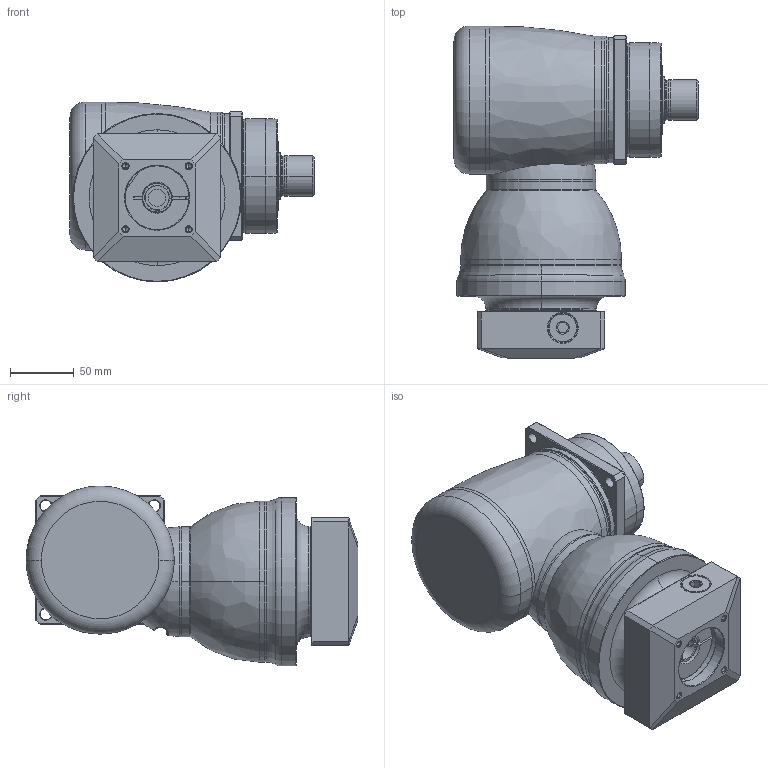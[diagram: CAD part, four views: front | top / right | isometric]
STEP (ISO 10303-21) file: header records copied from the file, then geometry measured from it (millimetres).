
FILE_DESCRIPTION((''),'2;1');
FILE_NAME('KF100_S3_1ST_19-P0409410101_ASM','2016-07-01T',('d01943'),(''),'PRO/ENGINEER BY PARAMETRIC TECHNOLOGY CORPORATION, 2008410','PRO/ENGINEER BY PARAMETRIC TECHNOLOGY CORPORATION, 2008410','');
FILE_SCHEMA(('CONFIG_CONTROL_DESIGN'));
Length unit declared in the file: millimetre
Products named in the file (11): P1008400002; P1804400001; P0915402001; P1315400001; P1007400001; P1318400001; P0409410101; P0503400008; P0912400001; 21711416017; KF100_S3_1ST_19-P0409410101_ASM
Assembly tree (10 placements, depth 2):
  KF100_S3_1ST_19-P0409410101_ASM
    P1008400002
    P1804400001
    P0915402001
    P1315400001
    P1007400001
    P1318400001
    P0409410101
    P0503400008
    P0912400001
    21711416017
Bounding box: 191.3 x 260 x 141 mm (x, y, z)
Volume: 2729374.8 mm3; surface area: 302871.5 mm2
Topology: 11 solids, 11 shells, 470 faces, 1044 edges, 613 vertices
Faces by surface type: cylinder 150, cone 122, plane 96, torus 66, bspline 34, sphere 2
Entity records: 18723 total; most frequent: CARTESIAN_POINT 8185, DIRECTION 2306, ORIENTED_EDGE 2048, EDGE_CURVE 1024, AXIS2_PLACEMENT_3D 979, VERTEX_POINT 613, EDGE_LOOP 531, CIRCLE 522
